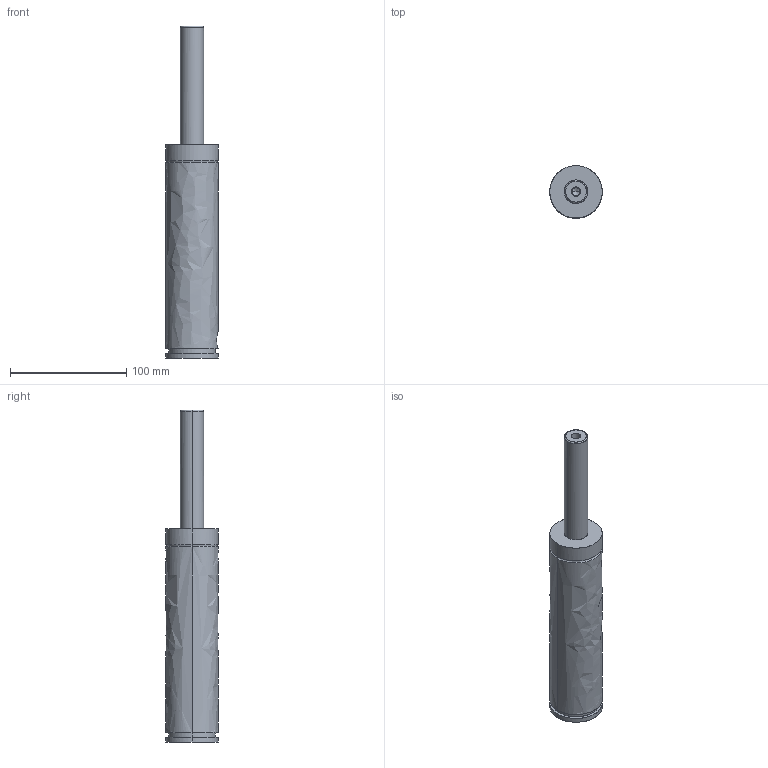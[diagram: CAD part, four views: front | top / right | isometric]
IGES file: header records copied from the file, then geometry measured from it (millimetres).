
Global section: file name: E:\UnigraphicsGraphicData\MISUMI_PRESS-PARTS\IGES\3d_gse45-100_03883_r00.igs; native system: NX V5.0; preprocessor: UGS NX IGES V5.0; author: MISUMI; date: 20110105.160756; units: millimetre
Bounding box: 45 x 45 x 285 mm (x, y, z)
Surface area: 37558.1 mm2 (no closed solid volume)
Topology: 0 solids, 0 shells, 57 faces, 450 edges, 448 vertices
Faces by surface type: bspline 57
